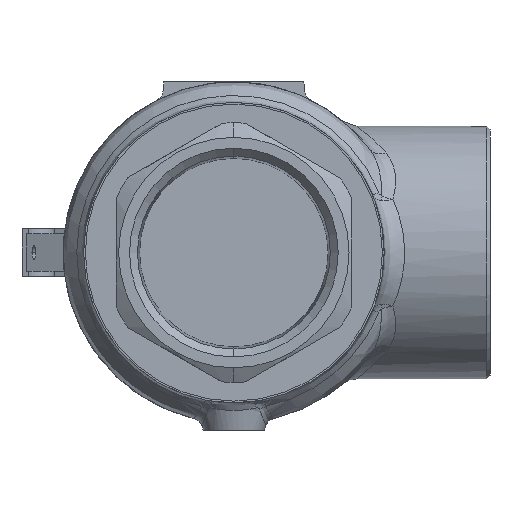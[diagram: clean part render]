
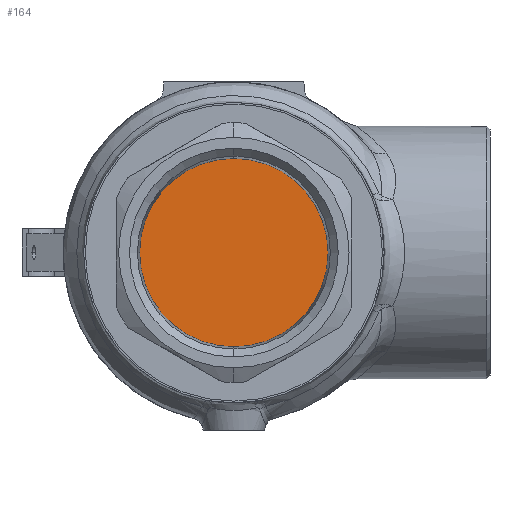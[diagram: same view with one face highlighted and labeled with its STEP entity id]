
A CAD part, front view. The second image highlights one B-rep face of the part: STEP entity #164.
In plain terms, the highlighted planar face has unit normal (0, -1, 0).
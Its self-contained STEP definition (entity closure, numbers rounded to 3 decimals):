
#164=ADVANCED_FACE('',(#789),#788,.F.);
#788=PLANE('',#2076);
#789=FACE_OUTER_BOUND('',#2077,.T.);
#2073=CARTESIAN_POINT('',(-57.366,-53.,-63.48));
#2074=DIRECTION('',(0.,1.,0.));
#2075=DIRECTION('',(0.,0.,1.));
#2076=AXIS2_PLACEMENT_3D('',#2073,#2074,#2075);
#2077=EDGE_LOOP('',(#4161,#4162));
#4161=ORIENTED_EDGE('',*,*,#4776,.F.);
#4162=ORIENTED_EDGE('',*,*,#4777,.F.);
#4776=EDGE_CURVE('',#6192,#6193,#6194,.T.);
#4777=EDGE_CURVE('',#6193,#6192,#6200,.T.);
#6192=VERTEX_POINT('',#8352);
#6193=VERTEX_POINT('',#8353);
#6194=CIRCLE('',#8357,27.6);
#6200=CIRCLE('',#8361,27.6);
#8352=CARTESIAN_POINT('',(0.,-53.,-27.6));
#8353=CARTESIAN_POINT('',(0.,-53.,27.6));
#8354=CARTESIAN_POINT('',(0.,-53.,0.));
#8355=DIRECTION('',(0.,1.,0.));
#8356=DIRECTION('',(0.,0.,1.));
#8357=AXIS2_PLACEMENT_3D('',#8354,#8355,#8356);
#8358=CARTESIAN_POINT('',(0.,-53.,0.));
#8359=DIRECTION('',(0.,1.,0.));
#8360=DIRECTION('',(0.,0.,1.));
#8361=AXIS2_PLACEMENT_3D('',#8358,#8359,#8360);
